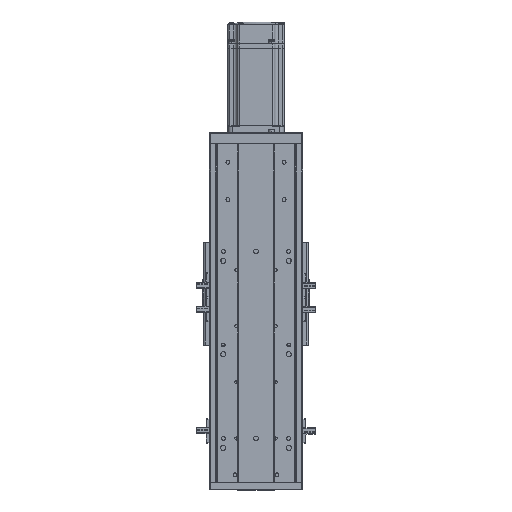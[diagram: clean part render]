
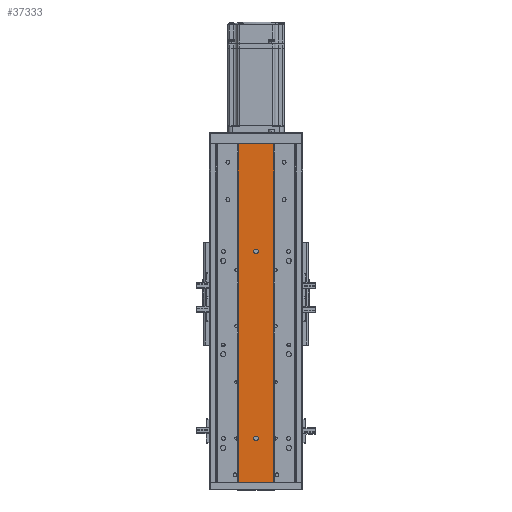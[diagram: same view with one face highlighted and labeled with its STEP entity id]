
A CAD part, top view. The second image highlights one B-rep face of the part: STEP entity #37333.
In plain terms, the highlighted planar face has unit normal (0, 0, 1).
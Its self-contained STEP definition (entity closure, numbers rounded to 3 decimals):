
#84 = EDGE_LOOP ( 'NONE', ( #32435, #32513 ) ) ;
#109 = EDGE_LOOP ( 'NONE', ( #32439, #32434, #32482, #32519 ) ) ;
#143 = EDGE_LOOP ( 'NONE', ( #32476, #32511 ) ) ;
#2119 = EDGE_CURVE ( 'NONE', #10101, #10019, #28843, .T. ) ;
#2138 = EDGE_CURVE ( 'NONE', #10079, #10019, #28948, .T. ) ;
#2144 = EDGE_CURVE ( 'NONE', #27099, #27126, #28907, .T. ) ;
#2198 = EDGE_CURVE ( 'NONE', #27152, #27179, #28980, .T. ) ;
#2214 = EDGE_CURVE ( 'NONE', #10273, #10079, #29040, .T. ) ;
#2231 = EDGE_CURVE ( 'NONE', #10273, #10101, #29076, .T. ) ;
#4546 = CARTESIAN_POINT ( 'NONE',  ( -10626.079, 47., -17040.86 ) ) ;
#4551 = DIRECTION ( 'NONE',  ( 0., 0., -1. ) ) ;
#4562 = DIRECTION ( 'NONE',  ( -1., 0., 0. ) ) ;
#4585 = CARTESIAN_POINT ( 'NONE',  ( -10626.079, 247., -17040.86 ) ) ;
#4599 = DIRECTION ( 'NONE',  ( 0., 0., -1. ) ) ;
#4623 = DIRECTION ( 'NONE',  ( -1., 0., 0. ) ) ;
#8582 = FACE_OUTER_BOUND ( 'NONE', #109, .T. ) ;
#8589 = FACE_BOUND ( 'NONE', #84, .T. ) ;
#8615 = FACE_BOUND ( 'NONE', #143, .T. ) ;
#10019 = VERTEX_POINT ( 'NONE', #41634 ) ;
#10079 = VERTEX_POINT ( 'NONE', #41619 ) ;
#10101 = VERTEX_POINT ( 'NONE', #41625 ) ;
#10273 = VERTEX_POINT ( 'NONE', #41764 ) ;
#12430 = CARTESIAN_POINT ( 'NONE',  ( -10628.579, 47., -17040.86 ) ) ;
#12485 = CARTESIAN_POINT ( 'NONE',  ( -10628.579, 247., -17040.86 ) ) ;
#12516 = CARTESIAN_POINT ( 'NONE',  ( -10623.579, 47., -17040.86 ) ) ;
#12564 = CARTESIAN_POINT ( 'NONE',  ( -10623.579, 247., -17040.86 ) ) ;
#15544 = CIRCLE ( 'NONE', #33427, 2.5 ) ;
#15674 = CIRCLE ( 'NONE', #33407, 2.5 ) ;
#21282 = DIRECTION ( 'NONE',  ( 0., 0., -1. ) ) ;
#21290 = CARTESIAN_POINT ( 'NONE',  ( -10645.079, 362., -17040.86 ) ) ;
#21322 = DIRECTION ( 'NONE',  ( -1., 0., 0. ) ) ;
#21323 = PLANE ( 'NONE',  #34081 ) ;
#26232 = DIRECTION ( 'NONE',  ( 1., 0., 0. ) ) ;
#26237 = CARTESIAN_POINT ( 'NONE',  ( -10645.079, 0., -17040.86 ) ) ;
#26280 = CARTESIAN_POINT ( 'NONE',  ( -10607.079, 362., -17040.86 ) ) ;
#26305 = DIRECTION ( 'NONE',  ( 0., -1., 0. ) ) ;
#26307 = DIRECTION ( 'NONE',  ( 0., 0., -1. ) ) ;
#26321 = CARTESIAN_POINT ( 'NONE',  ( -10626.079, 47., -17040.86 ) ) ;
#26327 = DIRECTION ( 'NONE',  ( -1., 0., 0. ) ) ;
#26434 = CARTESIAN_POINT ( 'NONE',  ( -10626.079, 247., -17040.86 ) ) ;
#26454 = DIRECTION ( 'NONE',  ( 0., 0., -1. ) ) ;
#26456 = DIRECTION ( 'NONE',  ( -1., 0., 0. ) ) ;
#26463 = CARTESIAN_POINT ( 'NONE',  ( -10645.079, 362., -17040.86 ) ) ;
#26473 = DIRECTION ( 'NONE',  ( 1., 0., 0. ) ) ;
#26521 = CARTESIAN_POINT ( 'NONE',  ( -10645.079, 362., -17040.86 ) ) ;
#26535 = DIRECTION ( 'NONE',  ( 0., -1., 0. ) ) ;
#27099 = VERTEX_POINT ( 'NONE', #12430 ) ;
#27126 = VERTEX_POINT ( 'NONE', #12516 ) ;
#27152 = VERTEX_POINT ( 'NONE', #12485 ) ;
#27179 = VERTEX_POINT ( 'NONE', #12564 ) ;
#28843 = LINE ( 'NONE', #26237, #28863 ) ;
#28863 = VECTOR ( 'NONE', #26232, 1000. ) ;
#28907 = CIRCLE ( 'NONE', #36885, 2.5 ) ;
#28911 = VECTOR ( 'NONE', #26305, 1000. ) ;
#28948 = LINE ( 'NONE', #26280, #28911 ) ;
#28980 = CIRCLE ( 'NONE', #36932, 2.5 ) ;
#29040 = LINE ( 'NONE', #26463, #29056 ) ;
#29056 = VECTOR ( 'NONE', #26473, 1000. ) ;
#29070 = VECTOR ( 'NONE', #26535, 1000. ) ;
#29076 = LINE ( 'NONE', #26521, #29070 ) ;
#32434 = ORIENTED_EDGE ( 'NONE', *, *, #2138, .F. ) ;
#32435 = ORIENTED_EDGE ( 'NONE', *, *, #35188, .T. ) ;
#32439 = ORIENTED_EDGE ( 'NONE', *, *, #2119, .T. ) ;
#32476 = ORIENTED_EDGE ( 'NONE', *, *, #35161, .T. ) ;
#32482 = ORIENTED_EDGE ( 'NONE', *, *, #2214, .F. ) ;
#32511 = ORIENTED_EDGE ( 'NONE', *, *, #2144, .T. ) ;
#32513 = ORIENTED_EDGE ( 'NONE', *, *, #2198, .T. ) ;
#32519 = ORIENTED_EDGE ( 'NONE', *, *, #2231, .T. ) ;
#33407 = AXIS2_PLACEMENT_3D ( 'NONE', #4585, #4599, #4623 ) ;
#33427 = AXIS2_PLACEMENT_3D ( 'NONE', #4546, #4551, #4562 ) ;
#34081 = AXIS2_PLACEMENT_3D ( 'NONE', #21290, #21282, #21322 ) ;
#35161 = EDGE_CURVE ( 'NONE', #27126, #27099, #15544, .T. ) ;
#35188 = EDGE_CURVE ( 'NONE', #27179, #27152, #15674, .T. ) ;
#36885 = AXIS2_PLACEMENT_3D ( 'NONE', #26321, #26307, #26327 ) ;
#36932 = AXIS2_PLACEMENT_3D ( 'NONE', #26434, #26454, #26456 ) ;
#37333 = ADVANCED_FACE ( 'NONE', ( #8589, #8615, #8582 ), #21323, .F. ) ;
#41619 = CARTESIAN_POINT ( 'NONE',  ( -10607.079, 362., -17040.86 ) ) ;
#41625 = CARTESIAN_POINT ( 'NONE',  ( -10645.079, 0., -17040.86 ) ) ;
#41634 = CARTESIAN_POINT ( 'NONE',  ( -10607.079, 0., -17040.86 ) ) ;
#41764 = CARTESIAN_POINT ( 'NONE',  ( -10645.079, 362., -17040.86 ) ) ;
